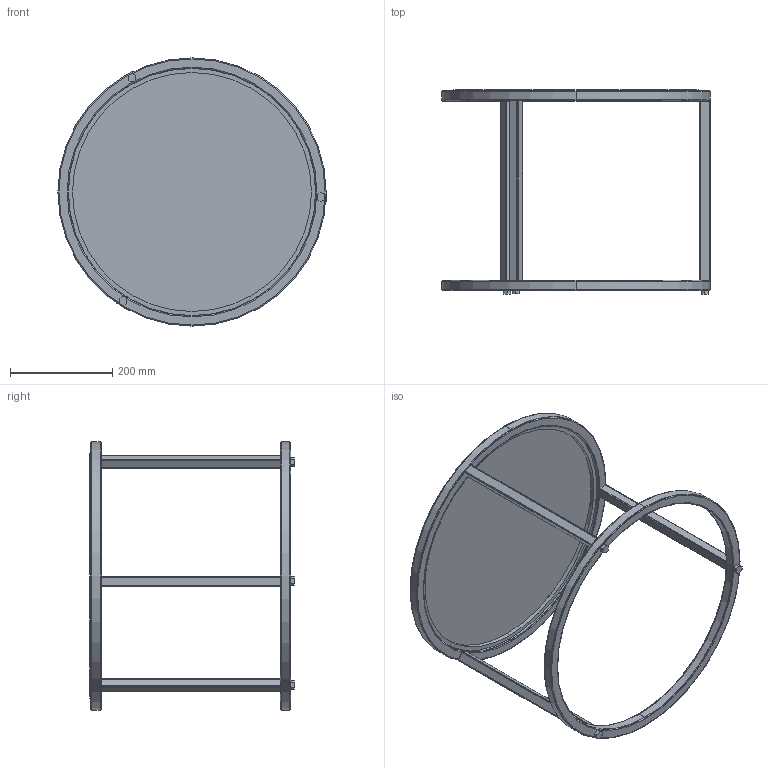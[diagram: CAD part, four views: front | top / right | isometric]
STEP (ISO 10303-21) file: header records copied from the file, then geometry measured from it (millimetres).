
FILE_DESCRIPTION (( 'STEP AP214' ), '1' );
FILE_NAME ('Kankana Table - D525XH400.STEP', '2024-04-04T12:39:42', ( '' ), ( '' ), 'SwSTEP 2.0', 'SolidWorks 2023', '' );
FILE_SCHEMA (( 'AUTOMOTIVE_DESIGN' ));
Length unit declared in the file: millimetre
Products named in the file (5): M6x20MM Hex Leveller; Metal Frame_Default<As Machined>; Kankana Table - D525XH400; Toughened Glass; Bumpon
Assembly tree (11 placements, depth 2):
  Kankana Table - D525XH400
    Metal Frame_Default<As Machined>
    Toughened Glass
    Bumpon  x6
    M6x20MM Hex Leveller  x3
Bounding box: 525 x 400 x 525 mm (x, y, z)
Volume: 1688569.2 mm3; surface area: 1033994.7 mm2
Topology: 16 solids, 17 shells, 339 faces, 857 edges, 557 vertices
Faces by surface type: cylinder 191, plane 84, torus 53, bspline 9, cone 2
Entity records: 9178 total; most frequent: CARTESIAN_POINT 4343, DIRECTION 998, ORIENTED_EDGE 970, EDGE_CURVE 485, AXIS2_PLACEMENT_3D 402, VERTEX_POINT 311, EDGE_LOOP 220, FACE_OUTER_BOUND 197
